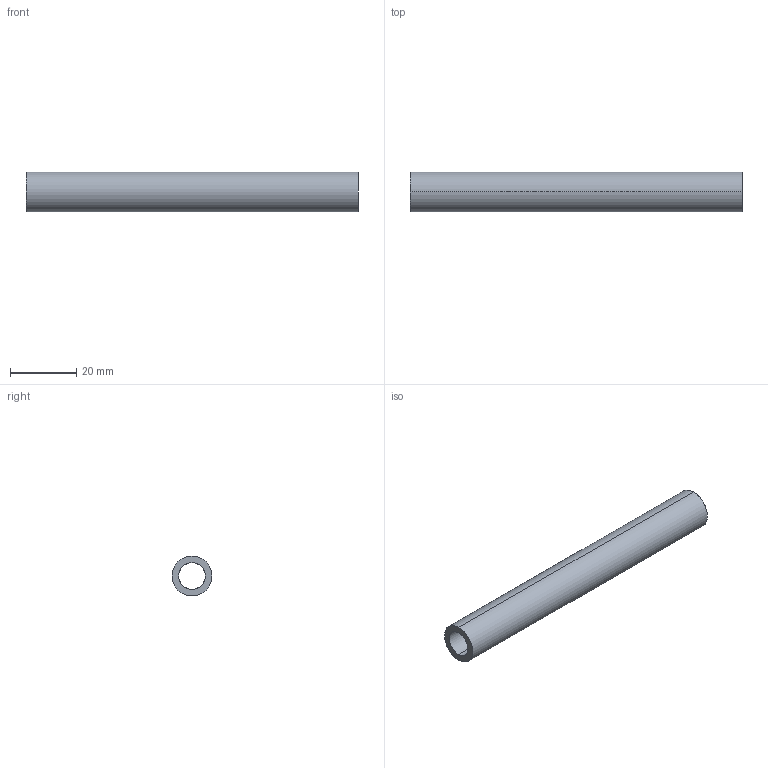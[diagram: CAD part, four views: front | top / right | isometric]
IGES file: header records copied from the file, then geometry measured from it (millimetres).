
Start section: SolidWorks IGES file using analytic representation for surfaces
Global section: file name: C:\Users\Toshiba\Desktop\100P-12-8.IGS; native system: SolidWorks 2014; preprocessor: SolidWorks 2014; author: Toshiba; date: 160308.163517; units: millimetre
Bounding box: 100 x 12 x 12 mm (x, y, z)
Surface area: 6408.9 mm2 (no closed solid volume)
Topology: 0 solids, 0 shells, 6 faces, 144 edges, 144 vertices
Faces by surface type: revolution 4, bspline 2
